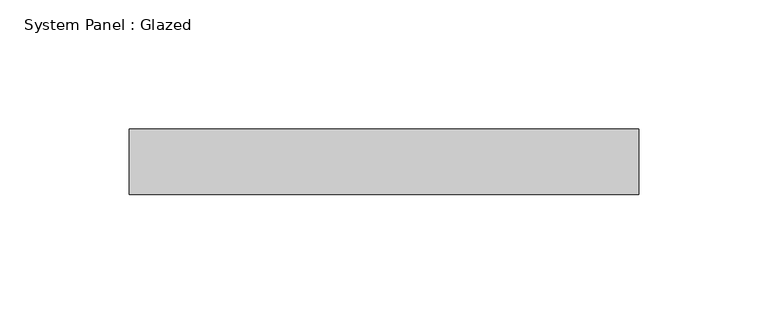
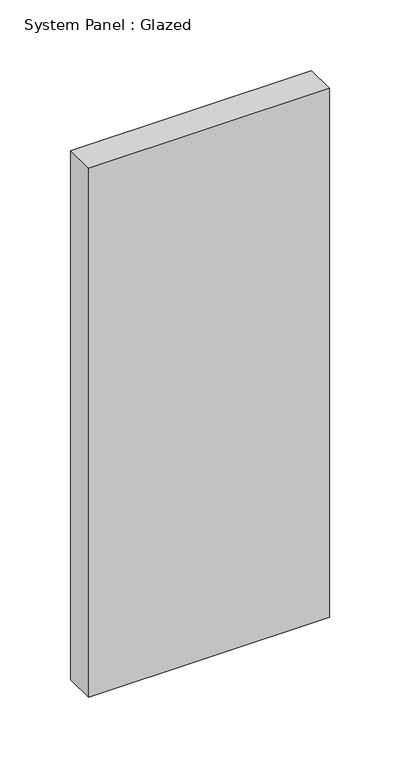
"""IFC4 building model written with IfcOpenShell, lengths in millimetres: plate geometry, System Panel : Glazed."""

from ifc_helpers import new_model, si_unit, origin, origin_with_axes, place, context, project, spatial, polyline, outline, extrude, source, transform, mapped, element, save


def system_panel_glazed_26306ce5(model_context):
    return source(origin(), model_context, "Body", "SweptSolid", [
        extrude(outline(polyline([(98.5938309, -44.45), (-98.5938309, -44.45), (-98.5938309, -19.05), (98.5938309, -19.05), (98.5938309, -44.45)])), origin_with_axes(), (0.0, 0.0, 1.0), 457.2),
    ])


if __name__ == "__main__":
    model = new_model("IFC4")
    model_context = context("Model", 3, world=origin())
    ifc_project = project(units=[si_unit("LENGTHUNIT", "METRE", prefix="MILLI")], contexts=[model_context])
    site = spatial("IfcSite", under=ifc_project)
    building = spatial("IfcBuilding", under=site)
    placement = place(None, origin())
    system_panel_glazed_shape = system_panel_glazed_26306ce5(model_context)
    element("IfcPlate", 1, ObjectType="System Panel : Glazed", at=placement, inside=building, context=model_context, shape_type="MappedRepresentation", body=[
        mapped(system_panel_glazed_shape, transform((0.0, 0.0, 0.0), x_axis=(1.0, 0.0, 0.0), y_axis=(0.0, 1.0, 0.0), z_axis=(0.0, 0.0, 1.0))),
    ])
    save(model, "model.ifc")
